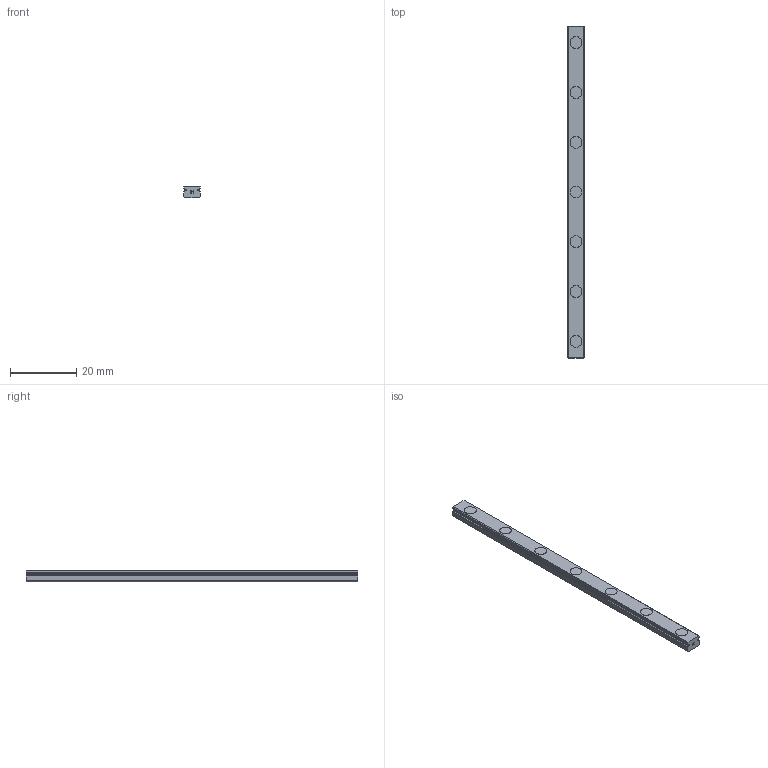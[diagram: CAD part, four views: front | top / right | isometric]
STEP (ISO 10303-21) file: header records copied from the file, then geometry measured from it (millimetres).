
FILE_DESCRIPTION(('no description'),'unknown implementation level');
FILE_NAME('PMNR05R_100_H_1.stp',' ',('HIWIN GmbH'),('CADClick - KiM GmbH - www.kimweb.de'),'unknown preprocess','ACIS','unknown authorization');
FILE_SCHEMA(('automotive_design'));
Length unit declared in the file: millimetre
Products named in the file (1): 1
Bounding box: 5 x 100 x 3.6 mm (x, y, z)
Volume: 1551.1 mm3; surface area: 2200.6 mm2
Topology: 1 solids, 1 shells, 156 faces, 387 edges, 258 vertices
Faces by surface type: plane 100, cylinder 56
Entity records: 9140 total; most frequent: DIRECTION 813, STYLED_ITEM 802, PRESENTATION_STYLE_ASSIGNMENT 802, CARTESIAN_POINT 802, COLOUR_RGB 802, ORIENTED_EDGE 774, EDGE_CURVE 387, CURVE_STYLE 387
